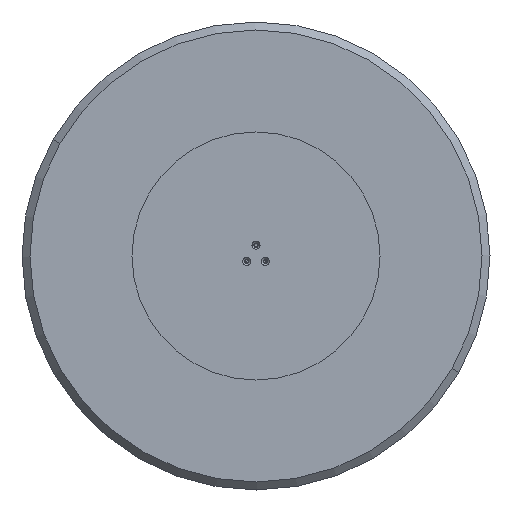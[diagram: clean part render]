
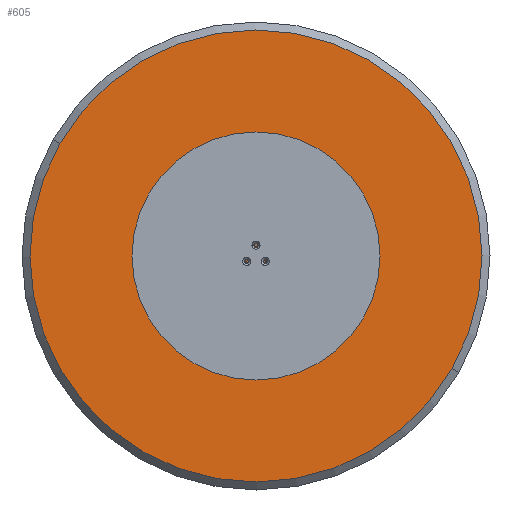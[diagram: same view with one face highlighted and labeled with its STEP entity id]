
A CAD part, front view. The second image highlights one B-rep face of the part: STEP entity #605.
In plain terms, the highlighted planar face has unit normal (0, -1, 0).
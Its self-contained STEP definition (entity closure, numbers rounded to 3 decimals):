
#25 = CARTESIAN_POINT ( 'NONE',  ( -95., 0., -54.848 ) ) ;
#45 = AXIS2_PLACEMENT_3D ( 'NONE', #25, #3252, #2934 ) ;
#53 = CIRCLE ( 'NONE', #705, 3.4 ) ;
#70 = CIRCLE ( 'NONE', #275, 3.4 ) ;
#79 = DIRECTION ( 'NONE',  ( 0., 0., -1. ) ) ;
#134 = CIRCLE ( 'NONE', #969, 3.4 ) ;
#139 = ORIENTED_EDGE ( 'NONE', *, *, #624, .F. ) ;
#140 = AXIS2_PLACEMENT_3D ( 'NONE', #3603, #771, #2033 ) ;
#173 = DIRECTION ( 'NONE',  ( 0., 0., -1. ) ) ;
#270 = CARTESIAN_POINT ( 'NONE',  ( 0., 0., 483. ) ) ;
#271 = CIRCLE ( 'NONE', #2571, 3.4 ) ;
#275 = AXIS2_PLACEMENT_3D ( 'NONE', #3419, #2542, #943 ) ;
#285 = DIRECTION ( 'NONE',  ( 0., 0., -1. ) ) ;
#306 = EDGE_CURVE ( 'NONE', #2620, #1562, #1890, .T. ) ;
#310 = VERTEX_POINT ( 'NONE', #2622 ) ;
#404 = DIRECTION ( 'NONE',  ( 0., -1., 0. ) ) ;
#443 = CARTESIAN_POINT ( 'NONE',  ( 0., 0., 0. ) ) ;
#453 = AXIS2_PLACEMENT_3D ( 'NONE', #2372, #2313, #173 ) ;
#466 = DIRECTION ( 'NONE',  ( 0., 0., -1. ) ) ;
#506 = EDGE_CURVE ( 'NONE', #1816, #3747, #2903, .T. ) ;
#508 = CARTESIAN_POINT ( 'NONE',  ( 95., 0., -51.448 ) ) ;
#582 = EDGE_CURVE ( 'NONE', #673, #310, #271, .T. ) ;
#605 = ADVANCED_FACE ( 'NONE', ( #2322, #3300, #3880, #3241, #2012 ), #2904, .T. ) ;
#624 = EDGE_CURVE ( 'NONE', #1562, #2620, #3501, .T. ) ;
#673 = VERTEX_POINT ( 'NONE', #3858 ) ;
#705 = AXIS2_PLACEMENT_3D ( 'NONE', #1733, #1101, #1708 ) ;
#747 = EDGE_LOOP ( 'NONE', ( #1295, #3728 ) ) ;
#767 = CARTESIAN_POINT ( 'NONE',  ( -95., 0., -58.248 ) ) ;
#771 = DIRECTION ( 'NONE',  ( 0., -1., 0. ) ) ;
#804 = VERTEX_POINT ( 'NONE', #2053 ) ;
#847 = CIRCLE ( 'NONE', #2426, 483. ) ;
#880 = CARTESIAN_POINT ( 'NONE',  ( 0., 0., 106.297 ) ) ;
#920 = CARTESIAN_POINT ( 'NONE',  ( 0., 0., 109.697 ) ) ;
#943 = DIRECTION ( 'NONE',  ( 0., 0., -1. ) ) ;
#969 = AXIS2_PLACEMENT_3D ( 'NONE', #920, #3040, #3376 ) ;
#1009 = VERTEX_POINT ( 'NONE', #3170 ) ;
#1101 = DIRECTION ( 'NONE',  ( 0., -1., 0. ) ) ;
#1122 = AXIS2_PLACEMENT_3D ( 'NONE', #2968, #404, #3281 ) ;
#1269 = EDGE_LOOP ( 'NONE', ( #2397, #1501 ) ) ;
#1294 = ORIENTED_EDGE ( 'NONE', *, *, #3143, .F. ) ;
#1295 = ORIENTED_EDGE ( 'NONE', *, *, #2987, .T. ) ;
#1441 = EDGE_CURVE ( 'NONE', #310, #673, #70, .T. ) ;
#1501 = ORIENTED_EDGE ( 'NONE', *, *, #582, .F. ) ;
#1562 = VERTEX_POINT ( 'NONE', #1589 ) ;
#1584 = EDGE_LOOP ( 'NONE', ( #3192, #2829 ) ) ;
#1589 = CARTESIAN_POINT ( 'NONE',  ( -95., 0., -51.448 ) ) ;
#1640 = DIRECTION ( 'NONE',  ( 0., -1., 0. ) ) ;
#1696 = EDGE_LOOP ( 'NONE', ( #2027, #139 ) ) ;
#1708 = DIRECTION ( 'NONE',  ( 0., 0., -1. ) ) ;
#1733 = CARTESIAN_POINT ( 'NONE',  ( 95., 0., -54.848 ) ) ;
#1792 = CARTESIAN_POINT ( 'NONE',  ( 95., 0., -58.248 ) ) ;
#1812 = CARTESIAN_POINT ( 'NONE',  ( 0., 0., 0. ) ) ;
#1816 = VERTEX_POINT ( 'NONE', #1792 ) ;
#1837 = VERTEX_POINT ( 'NONE', #270 ) ;
#1851 = AXIS2_PLACEMENT_3D ( 'NONE', #1857, #3117, #285 ) ;
#1857 = CARTESIAN_POINT ( 'NONE',  ( 95., 0., -54.848 ) ) ;
#1890 = CIRCLE ( 'NONE', #45, 3.4 ) ;
#2012 = FACE_BOUND ( 'NONE', #1269, .T. ) ;
#2027 = ORIENTED_EDGE ( 'NONE', *, *, #306, .F. ) ;
#2033 = DIRECTION ( 'NONE',  ( 0., 0., -1. ) ) ;
#2053 = CARTESIAN_POINT ( 'NONE',  ( 0., 0., -483. ) ) ;
#2088 = EDGE_CURVE ( 'NONE', #3789, #1009, #3114, .T. ) ;
#2284 = CARTESIAN_POINT ( 'NONE',  ( 0., 0., 109.697 ) ) ;
#2313 = DIRECTION ( 'NONE',  ( 0., -1., 0. ) ) ;
#2322 = FACE_BOUND ( 'NONE', #1696, .T. ) ;
#2372 = CARTESIAN_POINT ( 'NONE',  ( 0., 0., 0. ) ) ;
#2397 = ORIENTED_EDGE ( 'NONE', *, *, #1441, .F. ) ;
#2426 = AXIS2_PLACEMENT_3D ( 'NONE', #1812, #4068, #3389 ) ;
#2476 = EDGE_LOOP ( 'NONE', ( #3976, #1294 ) ) ;
#2542 = DIRECTION ( 'NONE',  ( 0., -1., 0. ) ) ;
#2571 = AXIS2_PLACEMENT_3D ( 'NONE', #443, #1640, #79 ) ;
#2620 = VERTEX_POINT ( 'NONE', #767 ) ;
#2622 = CARTESIAN_POINT ( 'NONE',  ( 0., 0., -3.4 ) ) ;
#2630 = CIRCLE ( 'NONE', #453, 483. ) ;
#2829 = ORIENTED_EDGE ( 'NONE', *, *, #3664, .F. ) ;
#2903 = CIRCLE ( 'NONE', #1851, 3.4 ) ;
#2904 = PLANE ( 'NONE',  #1122 ) ;
#2906 = DIRECTION ( 'NONE',  ( 0., -1., 0. ) ) ;
#2934 = DIRECTION ( 'NONE',  ( 0., 0., -1. ) ) ;
#2968 = CARTESIAN_POINT ( 'NONE',  ( 0., 0., 0. ) ) ;
#2987 = EDGE_CURVE ( 'NONE', #1837, #804, #2630, .T. ) ;
#3040 = DIRECTION ( 'NONE',  ( 0., -1., 0. ) ) ;
#3114 = CIRCLE ( 'NONE', #3244, 3.4 ) ;
#3117 = DIRECTION ( 'NONE',  ( 0., -1., 0. ) ) ;
#3143 = EDGE_CURVE ( 'NONE', #1009, #3789, #134, .T. ) ;
#3170 = CARTESIAN_POINT ( 'NONE',  ( 0., 0., 113.097 ) ) ;
#3192 = ORIENTED_EDGE ( 'NONE', *, *, #506, .F. ) ;
#3241 = FACE_OUTER_BOUND ( 'NONE', #747, .T. ) ;
#3244 = AXIS2_PLACEMENT_3D ( 'NONE', #2284, #2906, #466 ) ;
#3252 = DIRECTION ( 'NONE',  ( 0., -1., 0. ) ) ;
#3281 = DIRECTION ( 'NONE',  ( 0., 0., -1. ) ) ;
#3300 = FACE_BOUND ( 'NONE', #2476, .T. ) ;
#3376 = DIRECTION ( 'NONE',  ( 0., 0., -1. ) ) ;
#3389 = DIRECTION ( 'NONE',  ( 0., 0., -1. ) ) ;
#3419 = CARTESIAN_POINT ( 'NONE',  ( 0., 0., 0. ) ) ;
#3501 = CIRCLE ( 'NONE', #140, 3.4 ) ;
#3603 = CARTESIAN_POINT ( 'NONE',  ( -95., 0., -54.848 ) ) ;
#3664 = EDGE_CURVE ( 'NONE', #3747, #1816, #53, .T. ) ;
#3728 = ORIENTED_EDGE ( 'NONE', *, *, #3869, .T. ) ;
#3747 = VERTEX_POINT ( 'NONE', #508 ) ;
#3789 = VERTEX_POINT ( 'NONE', #880 ) ;
#3858 = CARTESIAN_POINT ( 'NONE',  ( 0., 0., 3.4 ) ) ;
#3869 = EDGE_CURVE ( 'NONE', #804, #1837, #847, .T. ) ;
#3880 = FACE_BOUND ( 'NONE', #1584, .T. ) ;
#3976 = ORIENTED_EDGE ( 'NONE', *, *, #2088, .F. ) ;
#4068 = DIRECTION ( 'NONE',  ( 0., -1., 0. ) ) ;
